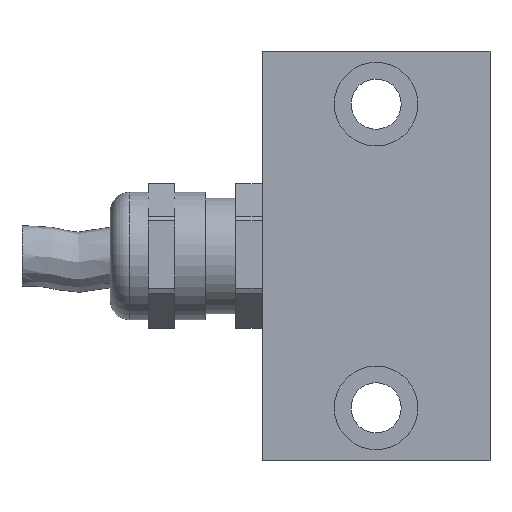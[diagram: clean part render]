
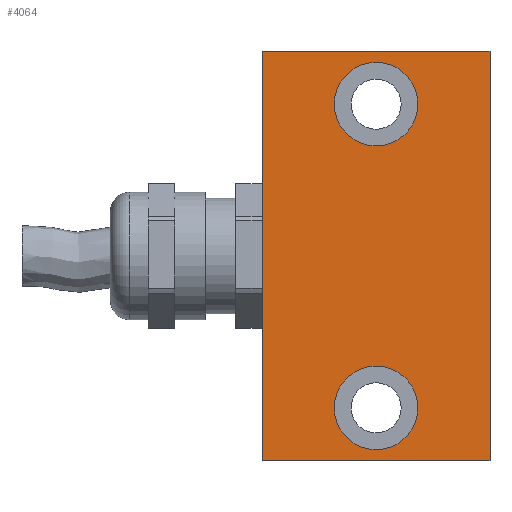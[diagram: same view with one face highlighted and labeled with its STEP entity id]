
A CAD part, front view. The second image highlights one B-rep face of the part: STEP entity #4064.
In plain terms, the highlighted planar face has unit normal (0, -1, 0).
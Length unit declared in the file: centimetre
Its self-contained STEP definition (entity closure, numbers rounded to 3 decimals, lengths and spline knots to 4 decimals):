
#293=VECTOR('',#6065,1.);
#297=VECTOR('',#6070,1.);
#300=VECTOR('',#6074,1.);
#302=VECTOR('',#6077,1.);
#723=LINE('',#4719,#293);
#727=LINE('',#4727,#297);
#730=LINE('',#4733,#300);
#732=LINE('',#4736,#302);
#1125=PLANE('',#4317);
#1301=VERTEX_POINT('',#4561);
#1305=VERTEX_POINT('',#4572);
#1354=VERTEX_POINT('',#4718);
#1355=VERTEX_POINT('',#4720);
#1357=VERTEX_POINT('',#4726);
#1359=VERTEX_POINT('',#4732);
#1672=CIRCLE('',#4252,0.55);
#1676=CIRCLE('',#4259,0.55);
#1767=EDGE_CURVE('',#1301,#1301,#1672,.T.);
#1771=EDGE_CURVE('',#1305,#1305,#1676,.T.);
#1844=EDGE_CURVE('',#1354,#1355,#723,.T.);
#1848=EDGE_CURVE('',#1357,#1354,#727,.T.);
#1851=EDGE_CURVE('',#1359,#1357,#730,.T.);
#1853=EDGE_CURVE('',#1355,#1359,#732,.T.);
#2501=ORIENTED_EDGE('',*,*,#1767,.T.);
#2502=ORIENTED_EDGE('',*,*,#1771,.T.);
#2503=ORIENTED_EDGE('',*,*,#1853,.F.);
#2504=ORIENTED_EDGE('',*,*,#1844,.F.);
#2505=ORIENTED_EDGE('',*,*,#1848,.F.);
#2506=ORIENTED_EDGE('',*,*,#1851,.F.);
#3472=EDGE_LOOP('',(#2501));
#3473=EDGE_LOOP('',(#2502));
#3474=EDGE_LOOP('',(#2503,#2504,#2505,#2506));
#3775=FACE_BOUND('',#3472,.T.);
#3776=FACE_BOUND('',#3473,.T.);
#3777=FACE_BOUND('',#3474,.T.);
#4064=ADVANCED_FACE('',(#3775,#3776,#3777),#1125,.F.);
#4252=AXIS2_PLACEMENT_3D('',#4560,#5914,#5915);
#4259=AXIS2_PLACEMENT_3D('',#4571,#5927,#5928);
#4317=AXIS2_PLACEMENT_3D('',#4738,#6079,$);
#4560=CARTESIAN_POINT('',(0.,0.,2.));
#4561=CARTESIAN_POINT('',(0.,0.,2.55));
#4571=CARTESIAN_POINT('',(0.,0.,-2.));
#4572=CARTESIAN_POINT('',(0.,0.,-1.45));
#4718=CARTESIAN_POINT('',(1.5,0.,-2.7));
#4719=CARTESIAN_POINT('',(1.5,0.,-2.7));
#4720=CARTESIAN_POINT('',(-1.5,0.,-2.7));
#4726=CARTESIAN_POINT('',(1.5,0.,2.7));
#4727=CARTESIAN_POINT('',(1.5,0.,2.7));
#4732=CARTESIAN_POINT('',(-1.5,0.,2.7));
#4733=CARTESIAN_POINT('',(-1.5,0.,2.7));
#4736=CARTESIAN_POINT('',(-1.5,0.,-2.7));
#4738=CARTESIAN_POINT('',(0.,0.,0.));
#5914=DIRECTION('',(0.,1.,0.));
#5915=DIRECTION('',(0.,0.,0.55));
#5927=DIRECTION('',(0.,1.,0.));
#5928=DIRECTION('',(0.,0.,0.55));
#6065=DIRECTION('',(-1.,0.,0.));
#6070=DIRECTION('',(0.,0.,-1.));
#6074=DIRECTION('',(1.,0.,0.));
#6077=DIRECTION('',(0.,0.,1.));
#6079=DIRECTION('',(0.,1.,0.));
